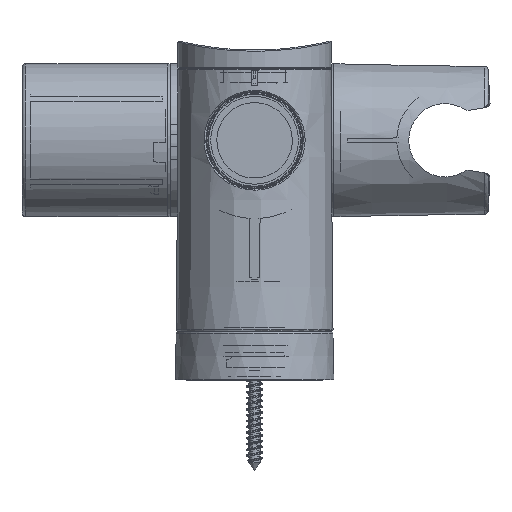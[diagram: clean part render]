
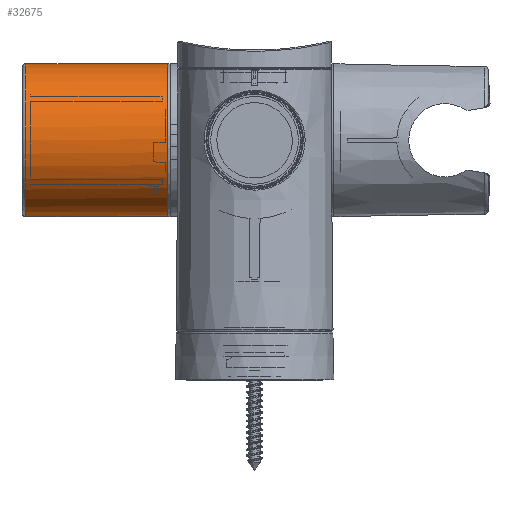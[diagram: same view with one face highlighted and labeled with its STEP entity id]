
A CAD part, front view. The second image highlights one B-rep face of the part: STEP entity #32675.
In plain terms, the highlighted cylindrical face has radius 20 mm (diameter 40 mm), a full revolution.
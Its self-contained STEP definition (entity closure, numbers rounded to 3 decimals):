
#1712=B_SPLINE_CURVE_WITH_KNOTS('',3,(#101156,#101157,#101158,#101159,#101160,
#101161,#101162,#101163,#101164,#101165,#101166,#101167,#101168,#101169,
#101170,#101171,#101172,#101173,#101174),.UNSPECIFIED.,.F.,.F.,(4,2,2,2,
3,2,2,2,4),(2.5,2.708,2.917,3.125,
3.333,3.542,3.75,3.958,4.133),
 .UNSPECIFIED.);
#1713=B_SPLINE_CURVE_WITH_KNOTS('',3,(#101175,#101176,#101177,#101178,#101179,
#101180,#101181,#101182,#101183,#101184,#101185,#101186,#101187,#101188,
#101189,#101190,#101191,#101192,#101193,#101194),.UNSPECIFIED.,.F.,.F.,
(4,2,2,2,2,2,2,2,2,4),(4.133,4.167,4.375,
4.583,4.792,5.,5.209,5.417,
5.625,5.834),.UNSPECIFIED.);
#3735=LINE('',#101150,#5373);
#5373=VECTOR('',#42795,20.);
#6105=CYLINDRICAL_SURFACE('',#35670,20.);
#6293=FACE_BOUND('',#9669,.T.);
#7691=FACE_OUTER_BOUND('',#9668,.T.);
#9668=EDGE_LOOP('',(#27697,#27698,#27699,#27700,#27701,#27702,#27703));
#9669=EDGE_LOOP('',(#27704,#27705));
#11472=CIRCLE('',#35671,20.);
#11473=CIRCLE('',#35672,20.);
#11474=CIRCLE('',#35673,20.);
#11475=CIRCLE('',#35674,20.);
#11476=CIRCLE('',#35675,20.);
#14345=VERTEX_POINT('',#101143);
#14346=VERTEX_POINT('',#101144);
#14347=VERTEX_POINT('',#101146);
#14348=VERTEX_POINT('',#101149);
#14349=VERTEX_POINT('',#101151);
#14350=VERTEX_POINT('',#101154);
#14351=VERTEX_POINT('',#101155);
#18952=EDGE_CURVE('',#14345,#14346,#11472,.T.);
#18953=EDGE_CURVE('',#14347,#14345,#11473,.T.);
#18954=EDGE_CURVE('',#14346,#14347,#11474,.T.);
#18955=EDGE_CURVE('',#14346,#14348,#3735,.T.);
#18956=EDGE_CURVE('',#14349,#14348,#11475,.T.);
#18957=EDGE_CURVE('',#14348,#14349,#11476,.T.);
#18958=EDGE_CURVE('',#14350,#14351,#1712,.T.);
#18959=EDGE_CURVE('',#14351,#14350,#1713,.T.);
#27697=ORIENTED_EDGE('',*,*,#18952,.F.);
#27698=ORIENTED_EDGE('',*,*,#18953,.F.);
#27699=ORIENTED_EDGE('',*,*,#18954,.F.);
#27700=ORIENTED_EDGE('',*,*,#18955,.T.);
#27701=ORIENTED_EDGE('',*,*,#18956,.F.);
#27702=ORIENTED_EDGE('',*,*,#18957,.F.);
#27703=ORIENTED_EDGE('',*,*,#18955,.F.);
#27704=ORIENTED_EDGE('',*,*,#18958,.F.);
#27705=ORIENTED_EDGE('',*,*,#18959,.F.);
#32675=ADVANCED_FACE('',(#7691,#6293),#6105,.T.);
#35670=AXIS2_PLACEMENT_3D('',#101142,#42787,#42788);
#35671=AXIS2_PLACEMENT_3D('',#101145,#42789,#42790);
#35672=AXIS2_PLACEMENT_3D('',#101147,#42791,#42792);
#35673=AXIS2_PLACEMENT_3D('',#101148,#42793,#42794);
#35674=AXIS2_PLACEMENT_3D('',#101152,#42796,#42797);
#35675=AXIS2_PLACEMENT_3D('',#101153,#42798,#42799);
#42787=DIRECTION('center_axis',(1.,0.,0.));
#42788=DIRECTION('ref_axis',(0.,-0.063,
-0.998));
#42789=DIRECTION('center_axis',(-1.,0.,0.));
#42790=DIRECTION('ref_axis',(0.,0.,1.));
#42791=DIRECTION('center_axis',(-1.,0.,0.));
#42792=DIRECTION('ref_axis',(0.,0.,1.));
#42793=DIRECTION('center_axis',(-1.,0.,0.));
#42794=DIRECTION('ref_axis',(0.,0.,1.));
#42795=DIRECTION('',(1.,0.,0.));
#42796=DIRECTION('center_axis',(1.,0.,0.));
#42797=DIRECTION('ref_axis',(0.,0.,-1.));
#42798=DIRECTION('center_axis',(1.,0.,0.));
#42799=DIRECTION('ref_axis',(0.,0.,-1.));
#101142=CARTESIAN_POINT('Origin',(-41.2,67.4,113.));
#101143=CARTESIAN_POINT('',(-59.7,67.4,133.));
#101144=CARTESIAN_POINT('',(-59.7,68.656,132.961));
#101145=CARTESIAN_POINT('Origin',(-59.7,67.4,113.));
#101146=CARTESIAN_POINT('',(-59.7,67.4,93.));
#101147=CARTESIAN_POINT('Origin',(-59.7,67.4,113.));
#101148=CARTESIAN_POINT('Origin',(-59.7,67.4,113.));
#101149=CARTESIAN_POINT('',(-22.7,68.656,132.961));
#101150=CARTESIAN_POINT('',(-41.2,68.656,132.961));
#101151=CARTESIAN_POINT('',(-22.7,67.4,133.));
#101152=CARTESIAN_POINT('Origin',(-22.7,67.4,113.));
#101153=CARTESIAN_POINT('Origin',(-22.7,67.4,113.));
#101154=CARTESIAN_POINT('',(-57.2,87.373,111.953));
#101155=CARTESIAN_POINT('',(-46.211,87.388,112.298));
#101156=CARTESIAN_POINT('Ctrl Pts',(-57.2,87.373,111.953));
#101157=CARTESIAN_POINT('Ctrl Pts',(-57.2,87.409,112.647));
#101158=CARTESIAN_POINT('Ctrl Pts',(-57.06,87.408,
113.386));
#101159=CARTESIAN_POINT('Ctrl Pts',(-56.498,87.335,
114.746));
#101160=CARTESIAN_POINT('Ctrl Pts',(-56.075,87.266,
115.366));
#101161=CARTESIAN_POINT('Ctrl Pts',(-55.103,87.124,
116.348));
#101162=CARTESIAN_POINT('Ctrl Pts',(-54.487,87.043,
116.775));
#101163=CARTESIAN_POINT('Ctrl Pts',(-53.133,86.925,
117.345));
#101164=CARTESIAN_POINT('Ctrl Pts',(-52.395,86.89,
117.486));
#101165=CARTESIAN_POINT('Ctrl Pts',(-51.7,86.89,117.486));
#101166=CARTESIAN_POINT('Ctrl Pts',(-51.005,86.89,
117.486));
#101167=CARTESIAN_POINT('Ctrl Pts',(-50.267,86.925,
117.345));
#101168=CARTESIAN_POINT('Ctrl Pts',(-48.913,87.043,
116.775));
#101169=CARTESIAN_POINT('Ctrl Pts',(-48.297,87.124,
116.348));
#101170=CARTESIAN_POINT('Ctrl Pts',(-47.325,87.266,
115.366));
#101171=CARTESIAN_POINT('Ctrl Pts',(-46.902,87.335,
114.746));
#101172=CARTESIAN_POINT('Ctrl Pts',(-46.386,87.402,113.498));
#101173=CARTESIAN_POINT('Ctrl Pts',(-46.248,87.408,112.888));
#101174=CARTESIAN_POINT('Ctrl Pts',(-46.211,87.388,
112.298));
#101175=CARTESIAN_POINT('Ctrl Pts',(-46.211,87.388,
112.298));
#101176=CARTESIAN_POINT('Ctrl Pts',(-46.204,87.384,112.182));
#101177=CARTESIAN_POINT('Ctrl Pts',(-46.2,87.379,112.067));
#101178=CARTESIAN_POINT('Ctrl Pts',(-46.2,87.336,111.26));
#101179=CARTESIAN_POINT('Ctrl Pts',(-46.34,87.258,
110.525));
#101180=CARTESIAN_POINT('Ctrl Pts',(-46.902,87.044,
109.18));
#101181=CARTESIAN_POINT('Ctrl Pts',(-47.325,86.91,108.57));
#101182=CARTESIAN_POINT('Ctrl Pts',(-48.297,86.666,
107.609));
#101183=CARTESIAN_POINT('Ctrl Pts',(-48.913,86.54,
107.192));
#101184=CARTESIAN_POINT('Ctrl Pts',(-50.267,86.363,
106.638));
#101185=CARTESIAN_POINT('Ctrl Pts',(-51.005,86.315,
106.501));
#101186=CARTESIAN_POINT('Ctrl Pts',(-52.395,86.315,
106.501));
#101187=CARTESIAN_POINT('Ctrl Pts',(-53.133,86.363,
106.638));
#101188=CARTESIAN_POINT('Ctrl Pts',(-54.487,86.54,
107.192));
#101189=CARTESIAN_POINT('Ctrl Pts',(-55.103,86.666,
107.609));
#101190=CARTESIAN_POINT('Ctrl Pts',(-56.075,86.91,108.57));
#101191=CARTESIAN_POINT('Ctrl Pts',(-56.498,87.044,
109.18));
#101192=CARTESIAN_POINT('Ctrl Pts',(-57.06,87.258,
110.525));
#101193=CARTESIAN_POINT('Ctrl Pts',(-57.2,87.336,111.26));
#101194=CARTESIAN_POINT('Ctrl Pts',(-57.2,87.373,111.953));
